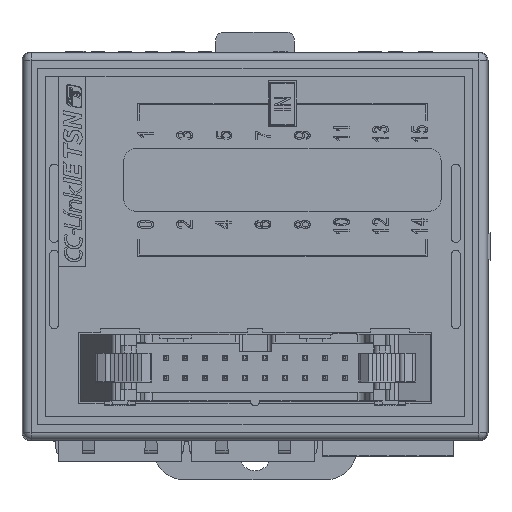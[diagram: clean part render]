
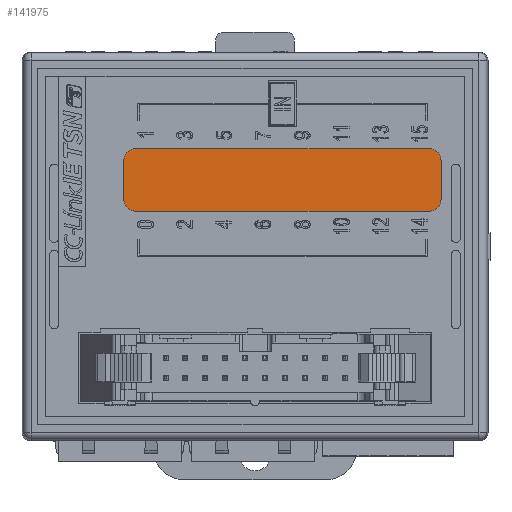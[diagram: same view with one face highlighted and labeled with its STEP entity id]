
A CAD part, top view. The second image highlights one B-rep face of the part: STEP entity #141975.
In plain terms, the highlighted planar face has unit normal (0, 0, 1).
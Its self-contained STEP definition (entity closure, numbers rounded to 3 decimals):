
#40421=DIRECTION('',(-1.,0.,0.));
#40422=VECTOR('',#40421,37.5);
#40423=CARTESIAN_POINT('',(22.25,12.5,30.9));
#40424=LINE('',#40423,#40422);
#40425=CARTESIAN_POINT('',(22.25,11.,30.9));
#40426=DIRECTION('',(0.,0.,1.));
#40427=DIRECTION('',(1.,0.,0.));
#40428=AXIS2_PLACEMENT_3D('',#40425,#40426,#40427);
#40430=DIRECTION('',(0.,1.,0.));
#40431=VECTOR('',#40430,5.);
#40432=CARTESIAN_POINT('',(23.75,6.,30.9));
#40433=LINE('',#40432,#40431);
#40434=CARTESIAN_POINT('',(22.25,6.,30.9));
#40435=DIRECTION('',(0.,0.,1.));
#40436=DIRECTION('',(0.,-1.,0.));
#40437=AXIS2_PLACEMENT_3D('',#40434,#40435,#40436);
#40439=DIRECTION('',(1.,0.,0.));
#40440=VECTOR('',#40439,37.5);
#40441=CARTESIAN_POINT('',(-15.25,4.5,30.9));
#40442=LINE('',#40441,#40440);
#40443=CARTESIAN_POINT('',(-15.25,6.,30.9));
#40444=DIRECTION('',(0.,0.,1.));
#40445=DIRECTION('',(-1.,0.,0.));
#40446=AXIS2_PLACEMENT_3D('',#40443,#40444,#40445);
#40448=DIRECTION('',(0.,-1.,0.));
#40449=VECTOR('',#40448,5.);
#40450=CARTESIAN_POINT('',(-16.75,11.,30.9));
#40451=LINE('',#40450,#40449);
#40452=CARTESIAN_POINT('',(-15.25,11.,30.9));
#40453=DIRECTION('',(0.,0.,1.));
#40454=DIRECTION('',(0.,1.,0.));
#40455=AXIS2_PLACEMENT_3D('',#40452,#40453,#40454);
#54419=CARTESIAN_POINT('',(-15.25,12.5,30.9));
#54420=VERTEX_POINT('',#54419);
#54421=CARTESIAN_POINT('',(22.25,12.5,30.9));
#54422=VERTEX_POINT('',#54421);
#54423=CARTESIAN_POINT('',(23.75,11.,30.9));
#54424=VERTEX_POINT('',#54423);
#54425=CARTESIAN_POINT('',(23.75,6.,30.9));
#54426=VERTEX_POINT('',#54425);
#54427=CARTESIAN_POINT('',(22.25,4.5,30.9));
#54428=VERTEX_POINT('',#54427);
#54429=CARTESIAN_POINT('',(-15.25,4.5,30.9));
#54430=VERTEX_POINT('',#54429);
#54431=CARTESIAN_POINT('',(-16.75,6.,30.9));
#54432=VERTEX_POINT('',#54431);
#54433=CARTESIAN_POINT('',(-16.75,11.,30.9));
#54434=VERTEX_POINT('',#54433);
#141960=CARTESIAN_POINT('',(3.5,8.5,30.9));
#141961=DIRECTION('',(0.,0.,1.));
#141962=DIRECTION('',(1.,0.,0.));
#141963=AXIS2_PLACEMENT_3D('',#141960,#141961,#141962);
#141964=PLANE('',#141963);
#141965=ORIENTED_EDGE('',*,*,#141800,.F.);
#141966=ORIENTED_EDGE('',*,*,#141822,.F.);
#141967=ORIENTED_EDGE('',*,*,#141843,.F.);
#141968=ORIENTED_EDGE('',*,*,#141864,.F.);
#141969=ORIENTED_EDGE('',*,*,#141885,.F.);
#141970=ORIENTED_EDGE('',*,*,#141906,.F.);
#141971=ORIENTED_EDGE('',*,*,#141927,.F.);
#141972=ORIENTED_EDGE('',*,*,#141947,.F.);
#141973=EDGE_LOOP('',(#141965,#141966,#141967,#141968,#141969,#141970,#141971,
#141972));
#141974=FACE_OUTER_BOUND('',#141973,.F.);
#141975=ADVANCED_FACE('',(#141974),#141964,.T.);
#40429=CIRCLE('',#40428,1.5);
#40438=CIRCLE('',#40437,1.5);
#40447=CIRCLE('',#40446,1.5);
#40456=CIRCLE('',#40455,1.5);
#141800=EDGE_CURVE('',#54422,#54420,#40424,.T.);
#141822=EDGE_CURVE('',#54424,#54422,#40429,.T.);
#141843=EDGE_CURVE('',#54426,#54424,#40433,.T.);
#141864=EDGE_CURVE('',#54428,#54426,#40438,.T.);
#141885=EDGE_CURVE('',#54430,#54428,#40442,.T.);
#141906=EDGE_CURVE('',#54432,#54430,#40447,.T.);
#141927=EDGE_CURVE('',#54434,#54432,#40451,.T.);
#141947=EDGE_CURVE('',#54420,#54434,#40456,.T.);
